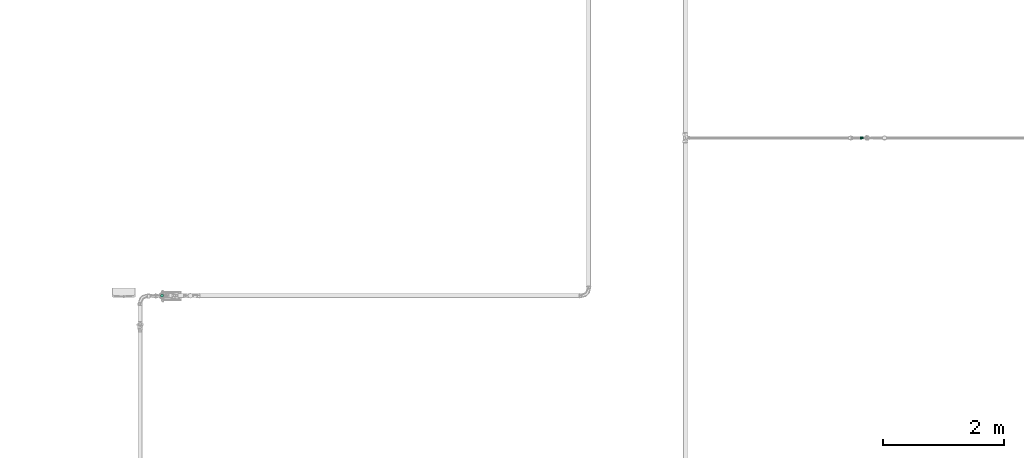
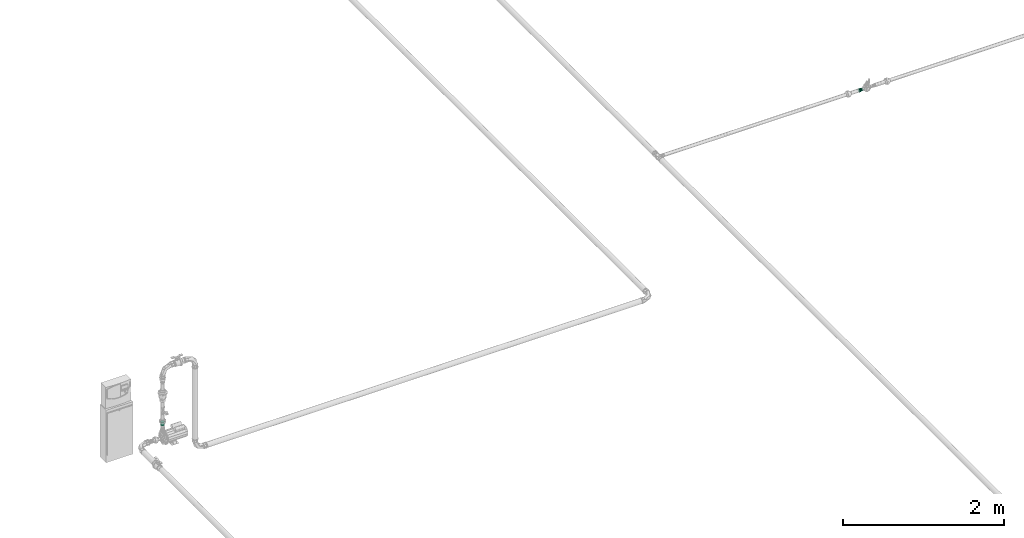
# One storey, part 145 of 166: 1 flow fitting, 1 flow segment.
"""IFC2X3 building model written with IfcOpenShell, lengths in metres."""

from ifc_helpers import new_model, entity, si_unit, converted_unit, direction, frame, origin, origin_2d_with_axis, place, context, subcontext, project, spatial, circle, extrude, faceted_brep, source, transform, mapped, material, type_object, type_shapes, element, save


model = new_model("IFC2X3")

# Units and contexts
model_context = context("Model", 3, precision=1e-05, world=origin(), true_north=direction((6.123233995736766e-17, 1.0)))
body_context = subcontext(model_context, "Body", "Model", "MODEL_VIEW")
ifc_project = project(units=[si_unit("LENGTHUNIT", "METRE"), converted_unit("PLANEANGLEUNIT", "DEGREE", entity("IfcPlaneAngleMeasure", 0.017453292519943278), si_unit("PLANEANGLEUNIT", "RADIAN"), dimensions=[0, 0, 0, 0, 0, 0, 0]), si_unit("AREAUNIT", "SQUARE_METRE")], contexts=[model_context])

# Site, building, storey
site_placement = place(None, origin())
site = spatial("IfcSite", under=ifc_project, at=site_placement, Name="Default", CompositionType="ELEMENT")
building_placement = place(site_placement, origin())
building = spatial("IfcBuilding", under=site, at=building_placement, Name="CASA DE ACOLHIDA PARA IDOSOS", CompositionType="ELEMENT")
storey_placement = place(building_placement, frame((0.0, 0.0, -1.7499999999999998)))
storey = spatial("IfcBuildingStorey", under=building, at=storey_placement, Name="IMPLANTAÇÃO DRENAGEM", CompositionType="ELEMENT", Elevation=-1.7499999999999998)

# Flow segment
pipe_segment_type = type_object("IfcPipeSegmentType", Name="Tipos de tubos:AF_Tubo Marrom Soldável", PredefinedType="NOTDEFINED")
flow_segment_placement = place(storey_placement, origin())
element("IfcFlowSegment", 1, at=flow_segment_placement, inside=storey, type_object=pipe_segment_type, Name="Tipos de tubos:AF_Tubo Marrom Soldável", ObjectType="Tipos de tubos:AF_Tubo Marrom Soldável", context=body_context, shape_type="SweptSolid", body=[
    extrude(circle(Radius=0.025, at=origin_2d_with_axis()), frame((-60.770762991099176, 7.052060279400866, 0.3263), z_axis=(0.0, 0.0, 1.0), x_axis=(-1.0, 0.0, 0.0)), (0.0, 0.0, 1.0), 0.048684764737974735),
])

# Flow fitting
ifc_material = material(Name="PVC Marrom")
pipe_fitting_type = type_object("IfcPipeFittingType", Name="AF_Soldavel_Adaptador Curto com Bolsa e Rosca:Standard", PredefinedType="NOTDEFINED", material=ifc_material)
shared_shape = source(origin(), body_context, "Body", "Brep", [
    faceted_brep([(0.0, 0.0099999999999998, -0.017320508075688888), (0.0, 0.018207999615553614, -0.018207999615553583), (0.0, 0.012875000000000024, -0.02230015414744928), (0.0, 0.014142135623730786, -0.014142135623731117), (0.0, 0.0051763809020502, -0.019318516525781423), (0.0, 0.022300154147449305, -0.01287499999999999), (0.0, 0.01732050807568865, -0.01000000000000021), (0.0, 0.0193185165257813, -0.005176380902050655), (0.0, 0.02487259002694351, -0.006664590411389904), (0.0, 0.02, 0.0), (0.0, 0.025750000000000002, 0.0), (0.0, 0.019318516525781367, 0.00517638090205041), (0.0, 0.024872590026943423, 0.006664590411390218), (0.0, 0.01732050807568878, 0.00999999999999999), (0.0, 0.02230015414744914, 0.012875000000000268), (0.0, 0.014142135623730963, 0.014142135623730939), (0.0, 0.018207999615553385, 0.018207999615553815), (0.0, 0.010000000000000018, 0.017320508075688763), (0.0, 0.012874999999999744, 0.022300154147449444), (0.0, 0.00517638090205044, 0.01931851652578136), (0.0, 0.006664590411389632, 0.024872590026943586), (0.0, 0.0, 0.02), (0.0, 0.0, 0.025750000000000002), (0.0, -0.005176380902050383, 0.019318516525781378), (0.0, -0.0066645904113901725, 0.024872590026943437), (0.0, -0.009999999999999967, 0.017320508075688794), (0.0, -0.012875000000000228, 0.022300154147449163), (0.0, -0.01414213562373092, 0.014142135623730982), (0.0, -0.01820799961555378, 0.01820799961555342), (0.0, -0.01732050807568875, 0.010000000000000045), (0.0, -0.02230015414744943, 0.012874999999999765), (0.0, -0.024872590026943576, 0.006664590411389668), (0.0, -0.01931851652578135, 0.005176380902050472), (0.0, -0.025750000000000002, 0.0), (0.0, -0.02, 0.0), (0.0, -0.02487259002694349, -0.006664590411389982), (0.0, -0.01931851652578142, -0.005176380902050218), (0.0, -0.02230015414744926, -0.012875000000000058), (0.0, -0.01732050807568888, -0.009999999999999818), (0.0, -0.01820799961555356, -0.018207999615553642), (0.0, -0.014142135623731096, -0.014142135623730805), (0.0, -0.012874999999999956, -0.022300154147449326), (0.0, -0.010000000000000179, -0.01732050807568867), (0.0, -0.006664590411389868, -0.024872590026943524), (0.0, -0.005176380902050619, -0.01931851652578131), (0.0, 0.0, -0.025750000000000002), (0.0, 0.0, -0.02), (0.0, 0.006664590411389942, -0.0248725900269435), (0.005999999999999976, -0.024973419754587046, 0.004403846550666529), (0.005999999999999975, -0.024768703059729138, 0.005564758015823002), (0.005999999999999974, -0.024196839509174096, 0.008807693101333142), (0.005999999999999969, -0.019724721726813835, 0.016552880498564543), (0.005999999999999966, -0.016298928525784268, 0.019427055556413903), (0.005999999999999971, -0.021960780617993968, 0.012680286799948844), (0.005999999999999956, -0.004468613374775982, 0.02535929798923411), (0.00599999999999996, -0.008670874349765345, 0.02383026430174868), (0.0059999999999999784, -0.025750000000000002, 0.0), (0.0059999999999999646, -0.01287313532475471, 0.02230123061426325), (0.005999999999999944, 0.008676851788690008, 0.023828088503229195), (0.00599999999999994, 0.012878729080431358, 0.022298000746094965), (0.005999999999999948, 0.004474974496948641, 0.02535817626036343), (0.005999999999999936, 0.016303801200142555, 0.019422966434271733), (0.005999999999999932, 0.019728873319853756, 0.016547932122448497), (0.005999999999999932, 0.024199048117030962, 0.008801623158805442), (0.0059999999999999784, 0.025750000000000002, 0.0), (0.005999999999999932, 0.021963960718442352, 0.012674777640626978), (0.0059999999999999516, 3.180561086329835e-06, 0.02535873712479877), (0.006000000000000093, 0.024199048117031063, -0.00880162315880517), (0.006000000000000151, 0.019728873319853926, -0.016547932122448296), (0.006000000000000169, 0.01630380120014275, -0.019422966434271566), (0.006000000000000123, 0.021963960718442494, -0.012674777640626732), (0.006000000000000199, 0.004474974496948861, -0.025358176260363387), (0.006000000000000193, 0.008676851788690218, -0.023828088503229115), (0.006000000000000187, 0.012878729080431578, -0.02229800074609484), (0.006000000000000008, -0.02497341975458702, -0.004403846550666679), (0.006000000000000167, -0.008670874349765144, -0.023830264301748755), (0.0060000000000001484, -0.012873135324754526, -0.022301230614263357), (0.006000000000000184, -0.004468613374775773, -0.02535929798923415), (0.006000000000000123, -0.016298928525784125, -0.019427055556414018), (0.006000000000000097, -0.01972472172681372, -0.016552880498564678), (0.006000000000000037, -0.024196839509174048, -0.008807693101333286), (0.006000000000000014, -0.024768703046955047, -0.005564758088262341), (0.006000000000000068, -0.021960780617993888, -0.012680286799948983), (0.006000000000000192, 3.1805610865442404e-06, -0.02535873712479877), (0.029099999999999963, -0.021800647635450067, 0.007935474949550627), (0.008600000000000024, -0.021800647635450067, 0.007935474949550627), (0.008600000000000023, -0.022500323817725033, 0.0039677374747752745), (0.00860000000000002, -0.023200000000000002, 0.0), (0.02910000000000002, -0.023200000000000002, 0.0), (0.02909999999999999, -0.022482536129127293, 0.004068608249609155), (0.02909999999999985, -0.011598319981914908, 0.020092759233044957), (0.00860000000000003, -0.011598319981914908, 0.020092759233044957), (0.00860000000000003, -0.014684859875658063, 0.017503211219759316), (0.008600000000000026, -0.017771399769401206, 0.014913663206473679), (0.029099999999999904, -0.017771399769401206, 0.014913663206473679), (0.02909999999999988, -0.014684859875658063, 0.017503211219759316), (0.008600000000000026, -0.019786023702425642, 0.011424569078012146), (0.02909999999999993, -0.019786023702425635, 0.01142456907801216), (0.00860000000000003, -0.007812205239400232, 0.02147037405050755), (0.02909999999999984, -0.007812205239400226, 0.021470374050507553), (0.029099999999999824, -0.004026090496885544, 0.02284798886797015), (0.00860000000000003, -0.004026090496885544, 0.02284798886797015), (0.00860000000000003, 2.8655929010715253e-06, 0.022847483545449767), (0.029099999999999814, 2.8655929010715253e-06, 0.022847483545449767), (0.029099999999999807, 0.004031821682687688, 0.022846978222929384), (0.00860000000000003, 0.004031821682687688, 0.022846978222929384), (0.029099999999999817, 0.011603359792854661, 0.020089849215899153), (0.00860000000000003, 0.011603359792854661, 0.020089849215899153), (0.00860000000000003, 0.007817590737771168, 0.021468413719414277), (0.029099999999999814, 0.007817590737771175, 0.021468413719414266), (0.029099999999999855, 0.017775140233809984, 0.014909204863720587), (0.00860000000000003, 0.017775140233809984, 0.014909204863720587), (0.00860000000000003, 0.01468925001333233, 0.017499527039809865), (0.02909999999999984, 0.014689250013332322, 0.01749952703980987), (0.02909999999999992, 0.021802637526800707, 0.00793000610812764), (0.008600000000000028, 0.021802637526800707, 0.00793000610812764), (0.00860000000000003, 0.019788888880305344, 0.01141960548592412), (0.02909999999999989, 0.019788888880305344, 0.011419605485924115), (0.02910000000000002, 0.023200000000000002, 0.0), (0.00860000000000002, 0.023200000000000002, 0.0), (0.029100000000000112, 0.021802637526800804, -0.007930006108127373), (0.008600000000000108, 0.021802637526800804, -0.007930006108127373), (0.00860000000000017, -0.011598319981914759, -0.020092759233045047), (0.02910000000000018, -0.011598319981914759, -0.020092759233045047), (0.02910000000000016, -0.01468485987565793, -0.017503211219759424), (0.029100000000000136, -0.0177713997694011, -0.014913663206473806), (0.008600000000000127, -0.0177713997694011, -0.014913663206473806), (0.00860000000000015, -0.01468485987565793, -0.017503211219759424), (0.0086000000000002, 0.01160335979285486, -0.020089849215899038), (0.00860000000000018, 0.014689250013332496, -0.017499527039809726), (0.008600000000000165, 0.017775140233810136, -0.014909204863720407), (0.02910000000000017, 0.017775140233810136, -0.014909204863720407), (0.029100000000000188, 0.014689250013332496, -0.017499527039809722), (0.02910000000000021, 0.01160335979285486, -0.020089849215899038), (0.029100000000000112, -0.01978602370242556, -0.011424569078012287), (0.02910000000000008, -0.021800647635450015, -0.007935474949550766), (0.008600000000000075, -0.021800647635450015, -0.007935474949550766), (0.0086000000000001, -0.01978602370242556, -0.011424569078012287), (0.008600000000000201, -0.004026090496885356, -0.022847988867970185), (0.029100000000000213, -0.004026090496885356, -0.022847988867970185), (0.029100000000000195, -0.007812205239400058, -0.021470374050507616), (0.008600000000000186, -0.007812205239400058, -0.021470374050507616), (0.008600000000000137, 0.019788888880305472, -0.01141960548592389), (0.029100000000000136, 0.01978888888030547, -0.01141960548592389), (0.008600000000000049, -0.02250032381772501, -0.00396773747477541), (0.029100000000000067, -0.022258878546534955, -0.005336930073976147), (0.029100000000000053, -0.02248253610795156, -0.004068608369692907), (0.008600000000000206, 0.00781759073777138, -0.02146841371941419), (0.029100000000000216, 0.00781759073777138, -0.02146841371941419), (0.029100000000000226, 0.0040318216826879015, -0.022846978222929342), (0.008600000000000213, 0.0040318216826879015, -0.022846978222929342), (0.008600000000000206, 2.8655929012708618e-06, -0.022847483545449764), (0.02910000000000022, 2.8655929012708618e-06, -0.022847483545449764), (0.056699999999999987, 0.0, -0.02), (0.056699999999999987, 0.00517638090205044, -0.01931851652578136), (0.056699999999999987, 0.010000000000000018, -0.017320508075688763), (0.056699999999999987, 0.014142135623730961, -0.01414213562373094), (0.056699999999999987, 0.01732050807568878, -0.009999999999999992), (0.056699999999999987, 0.019318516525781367, -0.00517638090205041), (0.056699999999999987, 0.02, 0.0), (0.056699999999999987, 0.0193185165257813, 0.005176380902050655), (0.056699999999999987, 0.01732050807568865, 0.01000000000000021), (0.056699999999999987, 0.014142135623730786, 0.014142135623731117), (0.056699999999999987, 0.0099999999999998, 0.017320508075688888), (0.056699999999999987, 0.0051763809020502, 0.019318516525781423), (0.056699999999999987, 0.0, 0.02), (0.056699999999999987, -0.005176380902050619, 0.01931851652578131), (0.056699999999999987, -0.010000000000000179, 0.01732050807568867), (0.056699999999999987, -0.014142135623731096, 0.014142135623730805), (0.056699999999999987, -0.01732050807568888, 0.009999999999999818), (0.056699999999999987, -0.01931851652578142, 0.005176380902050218), (0.056699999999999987, -0.02, 0.0), (0.056699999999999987, -0.01931851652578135, -0.005176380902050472), (0.056699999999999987, -0.01732050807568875, -0.010000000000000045), (0.056699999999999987, -0.01414213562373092, -0.014142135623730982), (0.056699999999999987, -0.009999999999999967, -0.017320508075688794), (0.056699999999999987, -0.005176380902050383, -0.019318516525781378), (0.03261999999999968, -0.0067346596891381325, 0.018508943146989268), (0.03261999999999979, -0.015320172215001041, 0.012856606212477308), (0.03261999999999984, -0.017056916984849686, 0.0098487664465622), (0.032619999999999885, -0.01879366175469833, 0.006840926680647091), (0.032619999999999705, -0.009998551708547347, 0.01732134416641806), (0.032619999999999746, -0.012659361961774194, 0.015088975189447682), (0.03261999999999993, -0.019188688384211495, 0.004600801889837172), (0.032619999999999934, -0.01939683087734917, 0.0034204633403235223), (0.03261999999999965, -0.0034707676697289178, 0.019696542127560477), (0.03261999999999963, 0.0034757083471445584, 0.019695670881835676), (0.032619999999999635, 2.470338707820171e-06, 0.019696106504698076), (0.03261999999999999, -0.02, 0.0), (0.032619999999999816, 0.01879537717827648, 0.006836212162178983), (0.03261999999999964, 0.006739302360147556, 0.018507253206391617), (0.03261999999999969, 0.012663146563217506, 0.0150857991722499), (0.032619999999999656, 0.010002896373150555, 0.017318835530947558), (0.03261999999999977, 0.01705938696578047, 0.009844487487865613), (0.03261999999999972, 0.015323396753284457, 0.012852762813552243), (0.03261999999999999, 0.02, 0.0), (0.03262000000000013, 0.015323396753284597, -0.012852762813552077), (0.0326200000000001, 0.017059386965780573, -0.009844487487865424), (0.03262000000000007, 0.018795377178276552, -0.006836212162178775), (0.032620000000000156, 0.010002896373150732, -0.017318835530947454), (0.03262000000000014, 0.012663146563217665, -0.015085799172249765), (0.03262000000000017, 0.0034757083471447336, -0.019695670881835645), (0.03262000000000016, 0.006739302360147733, -0.01850725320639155), (0.032620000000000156, -0.0034707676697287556, -0.019696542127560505), (0.03262000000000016, 2.4703387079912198e-06, -0.019696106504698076), (0.03262000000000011, -0.012659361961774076, -0.015088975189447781), (0.032620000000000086, -0.015320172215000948, -0.01285660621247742), (0.03262000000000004, -0.018793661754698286, -0.006840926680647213), (0.03262000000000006, -0.01705691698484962, -0.009848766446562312), (0.03262000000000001, -0.01939683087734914, -0.0034204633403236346), (0.03262000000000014, -0.006734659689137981, -0.018508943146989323), (0.03262000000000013, -0.009998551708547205, -0.017321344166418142), (0.00860000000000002, -0.02, 0.0), (0.02910000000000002, -0.02, 0.0), (0.02910000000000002, -0.019318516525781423, -0.005176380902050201), (0.00860000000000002, -0.019318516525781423, -0.005176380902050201), (0.0059999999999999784, -0.019318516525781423, -0.005176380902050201), (0.0059999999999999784, -0.02, 0.0), (0.02910000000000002, -0.017320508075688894, -0.009999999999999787), (0.00860000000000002, -0.017320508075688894, -0.009999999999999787), (0.0059999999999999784, -0.017320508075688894, -0.009999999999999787), (0.00860000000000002, -0.010000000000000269, -0.017320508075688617), (0.0059999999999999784, -0.010000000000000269, -0.017320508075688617), (0.0059999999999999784, -0.014142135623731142, -0.01414213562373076), (0.00860000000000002, -0.014142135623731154, -0.014142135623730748), (0.02910000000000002, -0.014142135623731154, -0.014142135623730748), (0.02910000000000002, -0.010000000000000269, -0.017320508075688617), (0.00860000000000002, -0.005176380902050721, -0.019318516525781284), (0.0059999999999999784, -0.005176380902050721, -0.019318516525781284), (0.02910000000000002, -0.005176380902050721, -0.019318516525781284), (0.02910000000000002, 0.0, -0.02), (0.00860000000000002, 0.0, -0.02), (0.0059999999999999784, 0.0, -0.02), (0.02910000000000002, 0.005176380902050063, -0.01931851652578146), (0.00860000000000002, 0.005176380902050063, -0.01931851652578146), (0.0059999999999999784, 0.005176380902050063, -0.01931851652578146), (0.02910000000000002, 0.009999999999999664, -0.017320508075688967), (0.00860000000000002, 0.009999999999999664, -0.017320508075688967), (0.0059999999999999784, 0.009999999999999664, -0.017320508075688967), (0.00860000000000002, 0.017320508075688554, -0.010000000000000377), (0.0059999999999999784, 0.017320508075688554, -0.010000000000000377), (0.0059999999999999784, 0.01414213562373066, -0.014142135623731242), (0.00860000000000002, 0.014142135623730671, -0.01414213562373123), (0.02910000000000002, 0.014142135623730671, -0.01414213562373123), (0.02910000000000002, 0.017320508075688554, -0.010000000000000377), (0.00860000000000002, 0.019318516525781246, -0.00517638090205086), (0.0059999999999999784, 0.019318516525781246, -0.00517638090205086), (0.02910000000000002, 0.019318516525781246, -0.00517638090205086), (0.02910000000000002, 0.02, 0.0), (0.00860000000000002, 0.02, 0.0), (0.0059999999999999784, 0.02, 0.0), (0.02910000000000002, 0.01931851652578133, 0.005176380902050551), (0.00860000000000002, 0.01931851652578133, 0.005176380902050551), (0.0059999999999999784, 0.01931851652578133, 0.005176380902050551), (0.02910000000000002, 0.017320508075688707, 0.010000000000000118), (0.00860000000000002, 0.017320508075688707, 0.010000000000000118), (0.0059999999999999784, 0.017320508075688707, 0.010000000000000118), (0.00860000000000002, 0.009999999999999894, 0.017320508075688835), (0.0059999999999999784, 0.009999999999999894, 0.017320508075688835), (0.0059999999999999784, 0.014142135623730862, 0.014142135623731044), (0.00860000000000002, 0.014142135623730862, 0.014142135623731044), (0.02910000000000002, 0.014142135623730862, 0.014142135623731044), (0.02910000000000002, 0.009999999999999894, 0.017320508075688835), (0.00860000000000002, 0.005176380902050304, 0.019318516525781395), (0.0059999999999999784, 0.005176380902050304, 0.019318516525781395), (0.02910000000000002, 0.005176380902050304, 0.019318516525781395), (0.02910000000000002, 0.0, 0.02), (0.00860000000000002, 0.0, 0.02), (0.0059999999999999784, 0.0, 0.02), (0.02910000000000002, -0.005176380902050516, 0.01931851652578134), (0.00860000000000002, -0.005176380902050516, 0.01931851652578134), (0.0059999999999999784, -0.005176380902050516, 0.01931851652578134), (0.00860000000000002, -0.019318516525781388, 0.005176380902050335), (0.0059999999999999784, -0.019318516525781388, 0.005176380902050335), (0.0059999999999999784, -0.017320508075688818, 0.009999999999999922), (0.00860000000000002, -0.017320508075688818, 0.009999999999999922), (0.02910000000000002, -0.017320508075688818, 0.009999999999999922), (0.02910000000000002, -0.019318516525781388, 0.005176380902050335), (0.00860000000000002, -0.014142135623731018, 0.014142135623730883), (0.02910000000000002, -0.014142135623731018, 0.014142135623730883), (0.0059999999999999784, -0.014142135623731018, 0.014142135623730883), (0.02910000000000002, -0.010000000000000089, 0.017320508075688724), (0.00860000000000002, -0.010000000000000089, 0.017320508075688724), (0.0059999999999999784, -0.010000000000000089, 0.017320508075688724)], [[[0, 1, 2]], [[3, 1, 0]], [[4, 0, 2]], [[1, 3, 5]], [[5, 3, 6]], [[5, 6, 7]], [[8, 5, 7]], [[9, 8, 7]], [[10, 8, 9]], [[10, 9, 11]], [[12, 10, 11]], [[12, 11, 13]], [[14, 12, 13]], [[14, 13, 15]], [[15, 16, 14]], [[15, 17, 16]], [[18, 16, 17]], [[19, 18, 17]], [[18, 19, 20]], [[21, 20, 19]], [[22, 20, 21]], [[21, 23, 22]], [[24, 22, 23]], [[25, 24, 23]], [[24, 25, 26]], [[25, 27, 26]], [[27, 28, 26]], [[28, 27, 29]], [[28, 29, 30]], [[30, 29, 31]], [[31, 29, 32]], [[33, 31, 32]], [[32, 34, 33]], [[33, 34, 35]], [[34, 36, 35]], [[37, 35, 36]], [[37, 36, 38]], [[39, 37, 38]], [[40, 39, 38]], [[40, 41, 39]], [[42, 41, 40]], [[43, 41, 42]], [[42, 44, 43]], [[43, 44, 45]], [[44, 46, 45]], [[46, 4, 47]], [[45, 46, 47]], [[2, 47, 4]], [[31, 48, 49, 50]], [[28, 51, 52]], [[51, 30, 50, 53]], [[54, 24, 55]], [[30, 31, 50]], [[56, 48, 33]], [[52, 57, 26]], [[52, 26, 28]], [[30, 51, 28]], [[58, 59, 18]], [[58, 18, 20]], [[26, 57, 55]], [[26, 55, 24]], [[22, 24, 54]], [[33, 48, 31]], [[20, 60, 58]], [[16, 61, 62]], [[12, 63, 64]], [[63, 14, 62, 65]], [[12, 64, 10]], [[18, 61, 16]], [[22, 54, 66, 60]], [[22, 60, 20]], [[14, 16, 62]], [[59, 61, 18]], [[14, 63, 12]], [[8, 64, 67]], [[1, 68, 69]], [[68, 5, 67, 70]], [[71, 47, 72]], [[5, 8, 67]], [[8, 10, 64]], [[2, 72, 47]], [[69, 73, 2]], [[5, 68, 1]], [[74, 33, 35]], [[75, 76, 41]], [[2, 73, 72]], [[75, 41, 43]], [[45, 47, 71]], [[69, 2, 1]], [[43, 77, 75]], [[39, 78, 79]], [[35, 80, 81, 74]], [[80, 37, 79, 82]], [[37, 80, 35]], [[41, 78, 39]], [[45, 71, 83, 77]], [[45, 77, 43]], [[37, 39, 79]], [[76, 78, 41]], [[74, 56, 33]], [[84, 85, 86, 87, 88, 89]], [[90, 91, 92, 93, 94, 95]], [[96, 85, 84, 97, 94, 93]], [[98, 91, 90, 99, 100, 101]], [[102, 101, 100, 103, 104, 105]], [[106, 107, 108, 105, 104, 109]], [[110, 111, 112, 107, 106, 113]], [[114, 115, 116, 111, 110, 117]], [[114, 118, 119, 115]], [[119, 118, 120, 121]], [[122, 123, 124, 125, 126, 127]], [[128, 129, 130, 131, 132, 133]], [[134, 135, 136, 137, 126, 125]], [[138, 139, 140, 123, 122, 141]], [[142, 121, 120, 143, 131, 130]], [[88, 87, 144, 136, 135, 145, 146]], [[147, 128, 133, 148, 149, 150]], [[151, 150, 149, 152, 139, 138]], [[153, 154, 155, 156, 157, 158, 159, 160, 161, 162, 163, 164, 165, 166, 167, 168, 169, 170, 171, 172, 173, 174, 175, 176]], [[177, 167, 166]], [[169, 168, 178]], [[169, 178, 179, 180]], [[181, 182, 167]], [[170, 180, 183, 184]], [[166, 185, 177]], [[178, 168, 182]], [[165, 186, 187, 185]], [[167, 182, 168]], [[184, 171, 170]], [[184, 188, 171]], [[169, 180, 170]], [[164, 186, 165]], [[161, 160, 189]], [[163, 190, 164]], [[191, 192, 163]], [[161, 189, 193, 194]], [[195, 160, 159]], [[190, 186, 164]], [[163, 192, 190]], [[161, 194, 162]], [[177, 181, 167]], [[162, 194, 191]], [[191, 163, 162]], [[160, 195, 189]], [[165, 185, 166]], [[195, 159, 158]], [[157, 156, 196]], [[157, 196, 197, 198]], [[199, 200, 155]], [[198, 195, 158]], [[154, 201, 202]], [[196, 156, 200]], [[153, 203, 204, 201]], [[153, 201, 154]], [[155, 200, 156]], [[205, 175, 174]], [[202, 155, 154]], [[202, 199, 155]], [[173, 206, 174]], [[157, 198, 158]], [[173, 172, 207]], [[173, 207, 208, 206]], [[171, 209, 172]], [[171, 188, 209]], [[176, 210, 203]], [[203, 153, 176]], [[211, 210, 175]], [[175, 210, 176]], [[174, 206, 205]], [[209, 207, 172]], [[205, 211, 175]], [[212, 213, 214, 215, 216, 36, 34, 217]], [[215, 214, 218, 219, 220, 38, 36, 216]], [[221, 222, 42, 40, 223, 224, 225, 226]], [[225, 224, 223, 40, 38, 220, 219, 218]], [[227, 228, 44, 42, 222, 221, 226, 229]], [[227, 229, 230, 231, 232, 46, 44, 228]], [[231, 230, 233, 234, 235, 4, 46, 232]], [[234, 233, 236, 237, 238, 0, 4, 235]], [[239, 240, 6, 3, 241, 242, 243, 244]], [[243, 242, 241, 3, 0, 238, 237, 236]], [[245, 246, 7, 6, 240, 239, 244, 247]], [[247, 248, 249, 250, 9, 7, 246, 245]], [[249, 248, 251, 252, 253, 11, 9, 250]], [[252, 251, 254, 255, 256, 13, 11, 253]], [[257, 258, 17, 15, 259, 260, 261, 262]], [[261, 260, 259, 15, 13, 256, 255, 254]], [[263, 264, 19, 17, 258, 257, 262, 265]], [[263, 265, 266, 267, 268, 21, 19, 264]], [[269, 270, 271, 23, 21, 268, 267, 266]], [[272, 273, 32, 29, 274, 275, 276, 277]], [[278, 279, 276, 275, 274, 29, 27, 280]], [[212, 217, 34, 32, 273, 272, 277, 213]], [[281, 282, 283, 25, 23, 271, 270, 269]], [[279, 278, 280, 27, 25, 283, 282, 281]], [[119, 121, 67, 64]], [[128, 73, 69, 68, 130, 129]], [[73, 128, 147, 150, 71, 72]], [[130, 68, 70, 67, 121, 142]], [[77, 138, 141, 122, 76, 75]], [[136, 80, 82, 79, 126, 137]], [[81, 80, 136, 144, 87, 56, 74]], [[83, 71, 150, 151, 138, 77]], [[78, 76, 122, 127, 126, 79]], [[85, 50, 49, 48, 56, 87, 86]], [[53, 50, 85, 96, 93, 51]], [[52, 51, 93, 92, 91, 57]], [[91, 98, 101, 54, 55, 57]], [[102, 105, 60, 66, 54, 101]], [[108, 107, 59, 58, 60, 105]], [[115, 119, 64, 63]], [[111, 116, 115, 63, 65, 62]], [[107, 112, 111, 62, 61, 59]], [[230, 229, 226, 225, 218, 214, 213, 277, 276, 279, 281, 269, 266, 265, 262, 261, 254, 251, 248, 247, 244, 243, 236, 233]], [[84, 89, 88, 188, 184, 183, 180]], [[185, 100, 99, 90, 181, 177]], [[95, 94, 178, 182, 181, 90]], [[97, 84, 180, 179, 178, 94]], [[100, 185, 187, 186, 104, 103]], [[189, 114, 117, 110, 194, 193]], [[104, 186, 190, 192, 106, 109]], [[189, 195, 118, 114]], [[113, 106, 192, 191, 194, 110]], [[195, 198, 120, 118]], [[133, 199, 202, 201, 149, 148]], [[199, 133, 132, 131, 196, 200]], [[143, 120, 198, 197, 196, 131]], [[139, 203, 210, 211, 123, 140]], [[207, 135, 134, 125, 206, 208]], [[145, 135, 207, 209, 188, 88, 146]], [[152, 149, 201, 204, 203, 139]], [[124, 123, 211, 205, 206, 125]]]),
])
type_shapes(pipe_fitting_type, [shared_shape])
flow_fitting_placement = place(storey_placement, frame((-49.256169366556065, 9.654671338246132, -0.20000000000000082)))
element("IfcFlowFitting", 2, at=flow_fitting_placement, inside=storey, type_object=pipe_fitting_type, material=ifc_material, Name="AF_Soldavel_Adaptador Curto com Bolsa e Rosca:Standard", ObjectType="AF_Soldavel_Adaptador Curto com Bolsa e Rosca:Standard", context=body_context, shape_type="MappedRepresentation", body=[
    mapped(shared_shape, transform((0.0, 0.0, 0.0), scale=1.0)),
])

save(model, "model.ifc")
